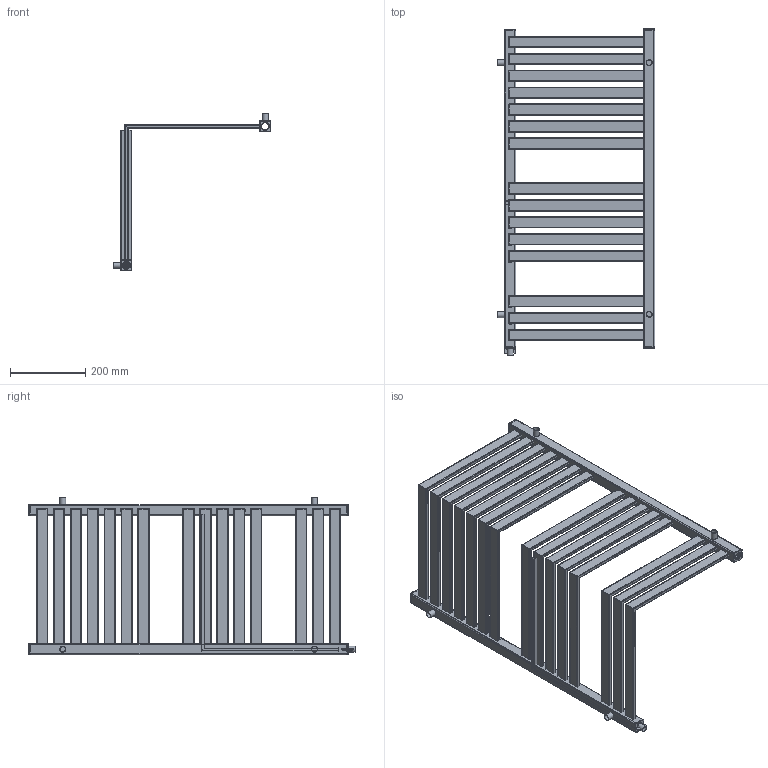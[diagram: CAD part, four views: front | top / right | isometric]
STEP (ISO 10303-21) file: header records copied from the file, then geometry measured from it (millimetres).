
FILE_DESCRIPTION( ( 'Unknown' ), '1' );
FILE_NAME( 'D:/Alplast sp. j/Witryna zespoBu - Projekty/Archiwum/Grzejniki Archiwum/Projekty/DESIGN PROGRAM/CORNER ALFA I BETA/CORNER BETA 3.stp', 'Unknown', ( 'Unknown' ), ( 'Unknown' ), 'PSStep 10.1', 'Unknown', ' ' );
FILE_SCHEMA( ( 'AUTOMOTIVE_DESIGN { 1 0 10303 214 1 1 1 1 }' ) );
Length unit declared in the file: millimetre
Products named in the file (6): kana³ po giêciu; Assem1; kana³y 30x10 czêœæ do giêcia; zaslepka kwadrat otwor; AK3-N; mocowanie
Bounding box: 420 x 868 x 420 mm (x, y, z)
Volume: 1534605.1 mm3; surface area: 2287439.1 mm2
Topology: 46 solids, 46 shells, 1280 faces, 3567 edges, 2356 vertices
Faces by surface type: plane 709, cylinder 561, torus 10
Full cylindrical faces by diameter (mm): 14 x5, 16 x5, 18.631 x5, 23 x5
Entity records: 7952 total; most frequent: DIRECTION 1141, CARTESIAN_POINT 1117, ORIENTED_EDGE 1054, EDGE_CURVE 527, AXIS2_PLACEMENT_3D 400, VERTEX_POINT 354, LINE 341, VECTOR 341
